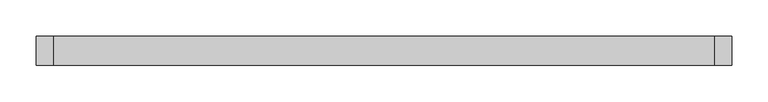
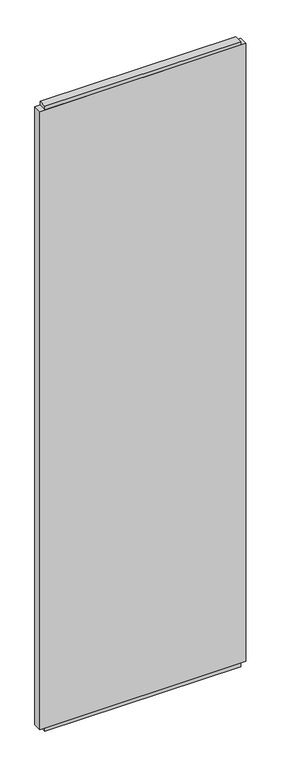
"""IFC4 building model written with IfcOpenShell, lengths in millimetres: plate geometry, Vitré."""

from ifc_helpers import new_model, si_unit, frame, origin, origin_with_axes, place, context, project, spatial, polyline, outline, extrude, source, transform, mapped, element, save


def plate_baebb507(model_context):
    return source(origin(), model_context, "Body", "SweptSolid", [
        extrude(outline(polyline([(479.4062498, -20.0), (-479.4062498, -20.0), (-479.4062498, 20.0), (479.4062498, 20.0), (479.4062498, -20.0)])), frame((0.0, 0.0, 17.375), z_axis=(0.0, 0.0, 1.0), x_axis=(1.0, 0.0, 0.0)), (0.0, 0.0, 1.0), 3042.625),
        extrude(outline(polyline([(455.5937498, -20.0), (-455.5937502, -20.0), (-455.5937502, 20.0), (455.5937498, 20.0), (455.5937498, -20.0)])), origin_with_axes(), (0.0, 0.0, 1.0), 3077.375),
    ])


if __name__ == "__main__":
    model = new_model("IFC4")
    model_context = context("Model", 3, world=origin())
    ifc_project = project(units=[si_unit("LENGTHUNIT", "METRE", prefix="MILLI")], contexts=[model_context])
    site = spatial("IfcSite", under=ifc_project)
    building = spatial("IfcBuilding", under=site)
    placement = place(None, origin())
    plate_shape = plate_baebb507(model_context)
    element("IfcPlate", 1, ObjectType="Vitré", at=placement, inside=building, context=model_context, shape_type="MappedRepresentation", body=[
        mapped(plate_shape, transform((0.0, 0.0, 0.0), x_axis=(1.0, 0.0, 0.0), y_axis=(0.0, 1.0, 0.0), z_axis=(0.0, 0.0, 1.0))),
    ])
    save(model, "model.ifc")
